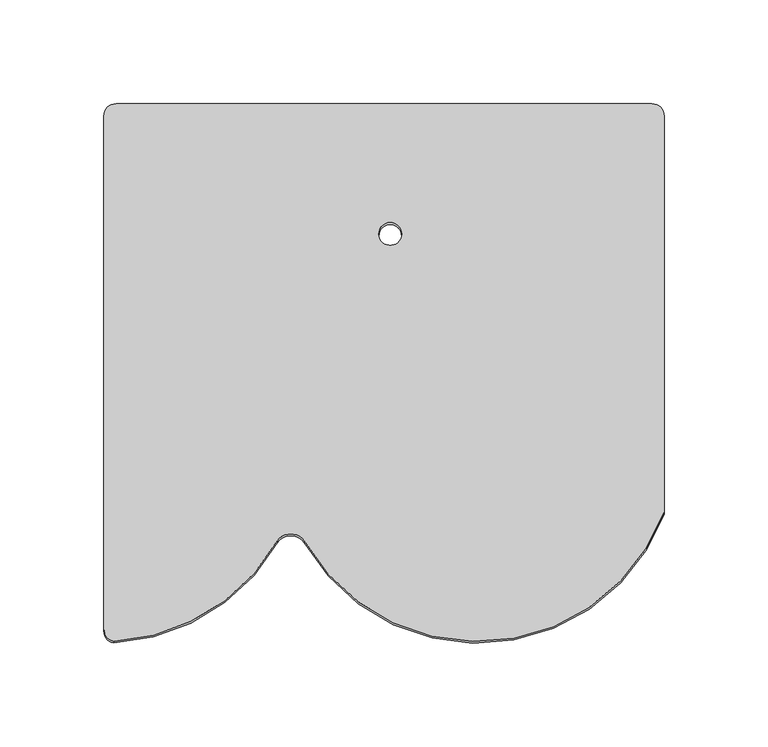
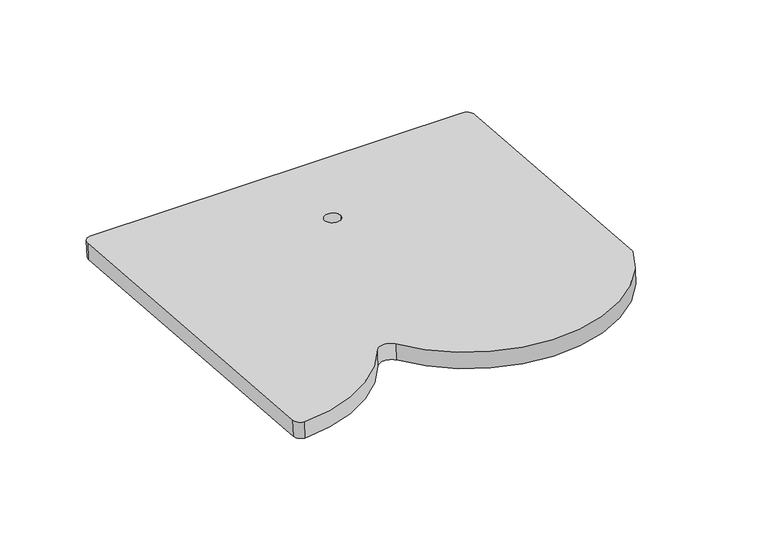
"""IFC4 building model written with IfcOpenShell, lengths in millimetres: proxy geometry, ML-PR-V-P-RED-N : K 1,5X-L."""

from ifc_helpers import new_model, si_unit, point, frame, frame_2d, origin, place, context, project, spatial, polyline, circle_curve, trimmed, segment, composite_curve, outline, extrude, source, transform, mapped, element, save


def specialty_equipment_88a180ae(model_context):
    return source(origin(), model_context, "Body", "SweptSolid", [
        extrude(outline(composite_curve([segment(polyline([(0.0, 0.0), (191.5936723, 0.0)]), True, "CONTINUOUS"), segment(trimmed(circle_curve(frame_2d((158.0, -89.9303352)), 96.0), [point((191.5936723, 0.0))], [point((205.4030407, -173.4105827))], False, "CARTESIAN"), True, "CONTINUOUS"), segment(trimmed(circle_curve(frame_2d((210.0390765, -179.9303352)), 8.0), [point((205.4030407, -173.4105827))], [point((205.4030407, -186.4500876))], True, "CARTESIAN"), True, "CONTINUOUS"), segment(trimmed(circle_curve(frame_2d((158.0, -269.9303352)), 96.0), [point((205.4030407, -186.4500876))], [point((253.8824823, -265.1816945))], False, "CARTESIAN"), True, "CONTINUOUS"), segment(trimmed(circle_curve(frame_2d((247.9999999, -264.0)), 6.0), [point((253.8824823, -265.1816945))], [point((247.9999999, -270.0))], False, "CARTESIAN"), True, "CONTINUOUS"), segment(polyline([(247.9999999, -270.0), (0.0, -270.0)]), True, "CONTINUOUS"), segment(trimmed(circle_curve(frame_2d((0.0, -264.0)), 6.0), [point((0.0, -270.0))], [point((-6.0000001, -264.0))], False, "CARTESIAN"), True, "CONTINUOUS"), segment(polyline([(-6.0000001, -264.0), (-6.0000001, -6.0)]), True, "CONTINUOUS"), segment(trimmed(circle_curve(frame_2d((0.0, -6.0)), 6.0), [point((-6.0000001, -6.0))], [point((0.0, 0.0))], False, "CARTESIAN"), True, "CONTINUOUS")], self_intersect=False), holes=[composite_curve([segment(trimmed(circle_curve(frame_2d((56.9999999, -132.0)), 5.5), [point((56.9999999, -137.5))], [point((56.9999999, -126.5))], True, "CARTESIAN"), True, "CONTINUOUS"), segment(trimmed(circle_curve(frame_2d((56.9999999, -132.0)), 5.5), [point((56.9999999, -126.5))], [point((56.9999999, -137.5))], True, "CARTESIAN"), True, "CONTINUOUS")], self_intersect=False)]), frame((90.0, 35.1734346, -2.6854246), z_axis=(0.0, 0.07788766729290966, 0.9969621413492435), x_axis=(0.0, -0.9969621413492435, 0.07788766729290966)), (0.0, 0.0, 1.0), 11.5),
    ])


if __name__ == "__main__":
    model = new_model("IFC4")
    model_context = context("Model", 3, world=origin())
    ifc_project = project(units=[si_unit("LENGTHUNIT", "METRE", prefix="MILLI")], contexts=[model_context])
    site = spatial("IfcSite", under=ifc_project)
    building = spatial("IfcBuilding", under=site)
    placement = place(None, origin())
    specialty_equipment_shape = specialty_equipment_88a180ae(model_context)
    element("IfcBuildingElementProxy", 1, Name="ML-PR-V-P-RED-N : K 1,5X-L", ObjectType="ML-PR-V-P-RED-N : K 1,5X-L", at=placement, inside=building, context=model_context, shape_type="MappedRepresentation", body=[
        mapped(specialty_equipment_shape, transform((0.0, 0.0, 0.0), x_axis=(1.0, 0.0, 0.0), y_axis=(0.0, 1.0, 0.0), z_axis=(0.0, 0.0, 1.0))),
    ])
    save(model, "model.ifc")
